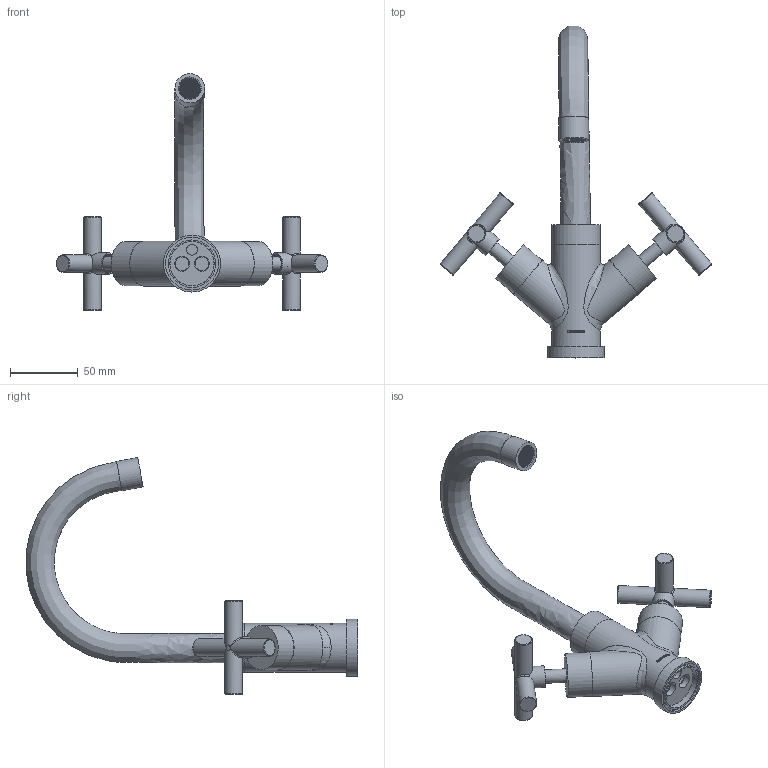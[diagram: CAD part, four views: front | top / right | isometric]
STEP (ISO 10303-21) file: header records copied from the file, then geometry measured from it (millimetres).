
FILE_DESCRIPTION(/* description */ (''),/* implementation_level */ '2;1');
FILE_NAME(/* name */ 'c:\worker\convert-fusion-r09\tmp\job-1\12\output\files\4bbb7c64-6227-46d5-aed4-038db5cbb42f\b990af8d-a436-4e3c-a4b5-b26fee4e7a82.stp',/* time_stamp */ '2019-12-09T15:20:55+00:00',/* author */ (''),/* organization */ (''),/* preprocessor_version */ 'ST-DEVELOPER v18',/* originating_system */ 'Autodesk Translation Framework v8.12.0.6',/* authorisation */ '');
FILE_SCHEMA (('AUTOMOTIVE_DESIGN { 1 0 10303 214 3 1 1 }'));
Products named in the file (2): !C301; LOGO NOWE v1
Assembly tree (1 placements, depth 2):
  !C301
    LOGO NOWE v1
Bounding box: 200.52 x 245.03 x 174.85 mm (x, y, z)
Volume: 277424.8 mm3; surface area: 100672.6 mm2
Topology: 38 solids, 38 shells, 3141 faces, 9326 edges, 6249 vertices
Faces by surface type: plane 2538, cylinder 286, bspline 240, cone 50, torus 25, sphere 2
Full cylindrical faces by diameter (mm): 2 x2, 4 x4, 7.7 x2, 7.8 x2, 8 x3, 10 x4, 10.3 x2, 11 x4, 13 x23, 13.5 x1, 14 x4, 15 x1, 15.1 x1, 15.5 x2, 15.56 x2, 16 x4, 16.1 x1, 16.5 x2, 17 x1, 18 x6, 18.5 x1, 19 x19, 20.5 x5, 21 x1, 21.5 x2, 22 x1, 23 x1, 24 x4, 24.5 x5, 26 x4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
Entity records: 170208 total; most frequent: CARTESIAN_POINT 82635, ORIENTED_EDGE 18648, DIRECTION 18069, EDGE_CURVE 9324, AXIS2_PLACEMENT_3D 6737, VERTEX_POINT 6249, LINE 4595, VECTOR 4595
